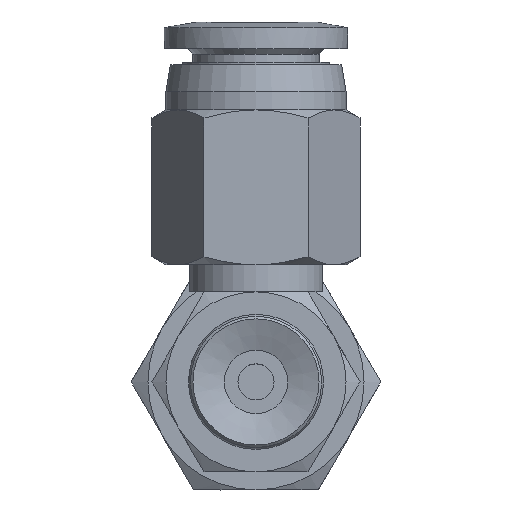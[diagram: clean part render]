
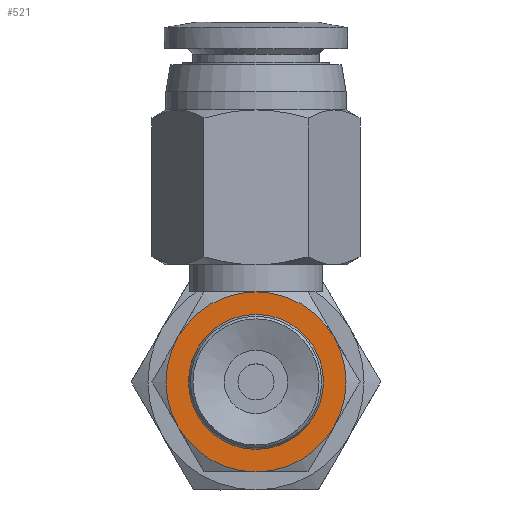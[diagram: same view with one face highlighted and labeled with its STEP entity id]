
A CAD part, front view. The second image highlights one B-rep face of the part: STEP entity #521.
In plain terms, the highlighted planar face has unit normal (0, -1, 0).
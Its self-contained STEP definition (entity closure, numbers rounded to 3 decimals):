
#521=ADVANCED_FACE('',(#781,#782),#783,.T.);
#781=FACE_BOUND('',#1213,.T.);
#782=FACE_OUTER_BOUND('',#1214,.T.);
#783=PLANE('',#1215);
#1213=EDGE_LOOP('',(#2170));
#1214=EDGE_LOOP('',(#2171,#2172,#2173,#2174,#2175,#2176));
#1215=AXIS2_PLACEMENT_3D('',#2177,#2178,#2179);
#2170=ORIENTED_EDGE('',*,*,#2968,.F.);
#2171=ORIENTED_EDGE('',*,*,#2969,.T.);
#2172=ORIENTED_EDGE('',*,*,#2970,.T.);
#2173=ORIENTED_EDGE('',*,*,#2911,.T.);
#2174=ORIENTED_EDGE('',*,*,#2967,.T.);
#2175=ORIENTED_EDGE('',*,*,#2913,.T.);
#2176=ORIENTED_EDGE('',*,*,#2927,.T.);
#2177=CARTESIAN_POINT('',(2.0,0.,0.0));
#2178=DIRECTION('',(0.0,-1.0,0.0));
#2179=DIRECTION('',(0.0,0.0,-1.0));
#2911=EDGE_CURVE('',#3273,#3275,#3277,.T.);
#2913=EDGE_CURVE('',#3281,#3278,#3282,.T.);
#2927=EDGE_CURVE('',#3278,#3299,#3306,.T.);
#2967=EDGE_CURVE('',#3275,#3281,#3372,.T.);
#2968=EDGE_CURVE('',#3373,#3373,#3374,.T.);
#2969=EDGE_CURVE('',#3299,#3285,#3375,.T.);
#2970=EDGE_CURVE('',#3285,#3273,#3376,.T.);
#3273=VERTEX_POINT('',#4071);
#3275=VERTEX_POINT('',#4075);
#3277=CIRCLE('',#4079,5.0);
#3278=VERTEX_POINT('',#4080);
#3281=VERTEX_POINT('',#4085);
#3282=CIRCLE('',#4086,5.0);
#3285=VERTEX_POINT('',#4091);
#3299=VERTEX_POINT('',#4117);
#3306=CIRCLE('',#4131,5.0);
#3372=CIRCLE('',#4291,5.0);
#3373=VERTEX_POINT('',#4292);
#3374=CIRCLE('',#4293,2.0);
#3375=CIRCLE('',#4294,5.0);
#3376=CIRCLE('',#4295,5.0);
#4071=CARTESIAN_POINT('',(4.33,0.,2.5));
#4075=CARTESIAN_POINT('',(0.0,0.,5.0));
#4079=AXIS2_PLACEMENT_3D('',#5011,#5012,#5013);
#4080=CARTESIAN_POINT('',(-4.33,0.,-2.5));
#4085=CARTESIAN_POINT('',(-4.33,0.,2.5));
#4086=AXIS2_PLACEMENT_3D('',#5014,#5015,#5016);
#4091=CARTESIAN_POINT('',(4.33,0.,-2.5));
#4117=CARTESIAN_POINT('',(0.0,0.,-5.0));
#4131=AXIS2_PLACEMENT_3D('',#5023,#5024,#5025);
#4291=AXIS2_PLACEMENT_3D('',#5068,#5069,#5070);
#4292=CARTESIAN_POINT('',(0.0,0.,-2.0));
#4293=AXIS2_PLACEMENT_3D('',#5071,#5072,#5073);
#4294=AXIS2_PLACEMENT_3D('',#5074,#5075,#5076);
#4295=AXIS2_PLACEMENT_3D('',#5077,#5078,#5079);
#5011=CARTESIAN_POINT('',(0.0,0.,0.0));
#5012=DIRECTION('',(0.0,-1.0,0.0));
#5013=DIRECTION('',(0.0,0.0,-1.0));
#5014=CARTESIAN_POINT('',(0.0,0.,0.0));
#5015=DIRECTION('',(0.0,-1.0,0.0));
#5016=DIRECTION('',(0.0,0.0,-1.0));
#5023=CARTESIAN_POINT('',(0.0,0.,0.0));
#5024=DIRECTION('',(0.0,-1.0,0.0));
#5025=DIRECTION('',(0.0,0.0,-1.0));
#5068=CARTESIAN_POINT('',(0.0,0.,0.0));
#5069=DIRECTION('',(0.0,-1.0,0.0));
#5070=DIRECTION('',(0.0,0.0,-1.0));
#5071=CARTESIAN_POINT('',(0.0,0.,0.0));
#5072=DIRECTION('',(0.0,-1.0,0.0));
#5073=DIRECTION('',(0.0,0.0,-1.0));
#5074=CARTESIAN_POINT('',(0.0,0.,0.0));
#5075=DIRECTION('',(0.0,-1.0,0.0));
#5076=DIRECTION('',(0.0,0.0,-1.0));
#5077=CARTESIAN_POINT('',(0.0,0.,0.0));
#5078=DIRECTION('',(0.0,-1.0,0.0));
#5079=DIRECTION('',(0.0,0.0,-1.0));
